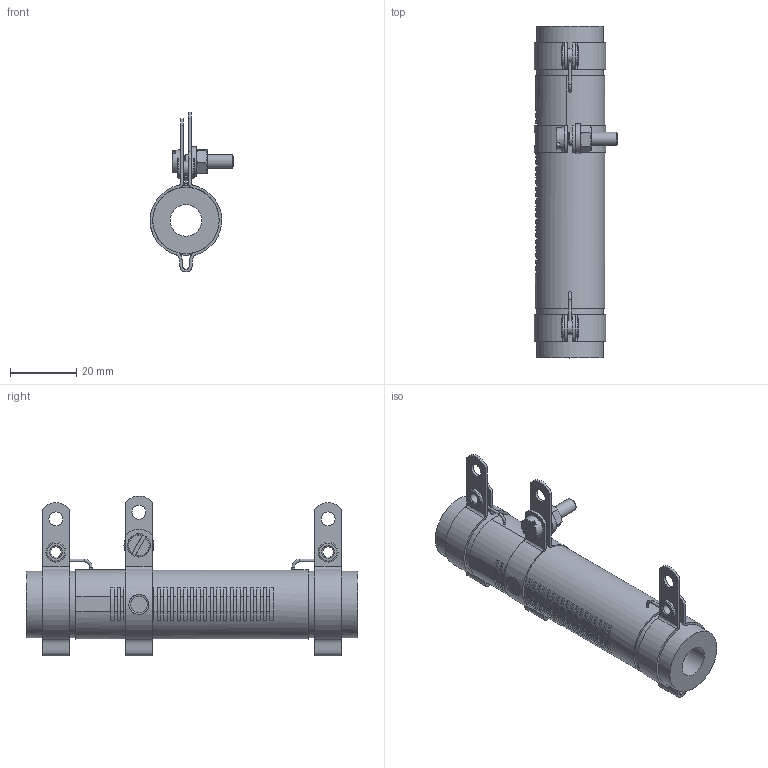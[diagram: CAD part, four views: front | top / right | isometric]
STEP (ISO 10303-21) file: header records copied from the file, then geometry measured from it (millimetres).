
FILE_DESCRIPTION(/* description */ (''),/* implementation_level */ '2;1');
FILE_NAME(/* name */ 'C:\_Vault\Dati\CATALOGO\RC-RS\RCR-RSR TC\RSR TC 60.stp',/* time_stamp */ '2014-03-20T11:25:34+01:00',/* author */ ('stefano'),/* organization */ (''),/* preprocessor_version */ 'ST-DEVELOPER v15.2',/* originating_system */ 'Autodesk Inventor 2014',/* authorisation */ '');
FILE_SCHEMA (('AUTOMOTIVE_DESIGN { 1 0 10303 214 3 1 1 }'));
Length unit declared in the file: millimetre
Products named in the file (1): RSR TC 60
Bounding box: 25.25 x 100 x 48.2 mm (x, y, z)
Volume: 28604.8 mm3; surface area: 13482.4 mm2
Topology: 1 solids, 5 shells, 287 faces, 765 edges, 502 vertices
Faces by surface type: plane 166, cylinder 81, cone 16, torus 12, bspline 12
Full cylindrical faces by diameter (mm): 0.4 x2, 0.8 x6, 3.2 x2, 3.571 x1, 4 x2, 4.2 x7, 4.3 x1, 6 x4, 9 x1, 9.5 x1, 20 x2, 21 x1
Entity records: 9681 total; most frequent: CARTESIAN_POINT 2343, DIRECTION 1470, ORIENTED_EDGE 1410, EDGE_CURVE 705, AXIS2_PLACEMENT_3D 558, VERTEX_POINT 487, EDGE_LOOP 372, LINE 354
